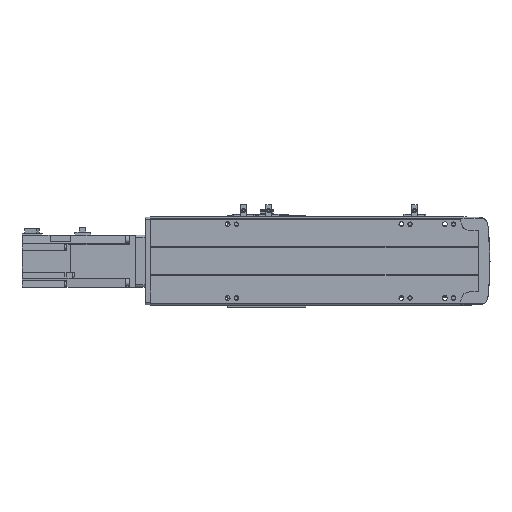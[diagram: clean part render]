
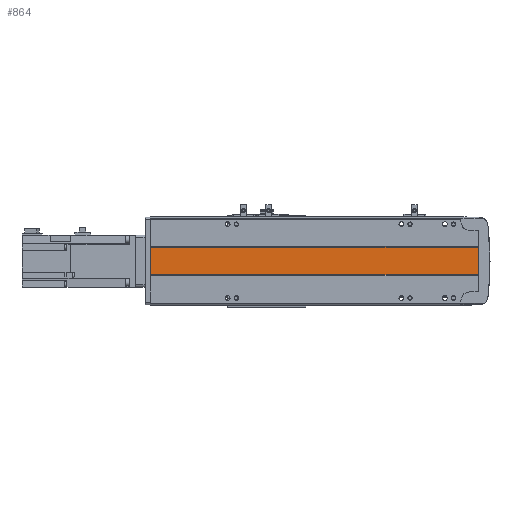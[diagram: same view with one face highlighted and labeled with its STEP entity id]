
A CAD part, front view. The second image highlights one B-rep face of the part: STEP entity #864.
In plain terms, the highlighted planar face has unit normal (0, -1, 0).
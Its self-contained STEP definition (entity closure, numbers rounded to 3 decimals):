
#864 = ADVANCED_FACE( '', ( #2298 ), #2299, .F. );
#2298 = FACE_OUTER_BOUND( '', #4547, .T. );
#2299 = PLANE( '', #4548 );
#4547 = EDGE_LOOP( '', ( #6789, #6790, #6791, #6792 ) );
#4548 = AXIS2_PLACEMENT_3D( '', #6793, #6794, #6795 );
#6789 = ORIENTED_EDGE( '', *, *, #12949, .F. );
#6790 = ORIENTED_EDGE( '', *, *, #12950, .T. );
#6791 = ORIENTED_EDGE( '', *, *, #12951, .T. );
#6792 = ORIENTED_EDGE( '', *, *, #12952, .F. );
#6793 = CARTESIAN_POINT( '', ( 397., 1., 16. ) );
#6794 = DIRECTION( '', ( 0., 1., 0. ) );
#6795 = DIRECTION( '', ( 0., 0., 1. ) );
#12949 = EDGE_CURVE( '', #15351, #15352, #15353, .T. );
#12950 = EDGE_CURVE( '', #15351, #15354, #15355, .T. );
#12951 = EDGE_CURVE( '', #15354, #15356, #15357, .T. );
#12952 = EDGE_CURVE( '', #15352, #15356, #15358, .T. );
#15351 = VERTEX_POINT( '', #18943 );
#15352 = VERTEX_POINT( '', #18944 );
#15353 = LINE( '', #18945, #18946 );
#15354 = VERTEX_POINT( '', #18947 );
#15355 = LINE( '', #18948, #18949 );
#15356 = VERTEX_POINT( '', #18950 );
#15357 = LINE( '', #18951, #18952 );
#15358 = LINE( '', #18953, #18954 );
#18943 = CARTESIAN_POINT( '', ( 383.5, 1., 16. ) );
#18944 = CARTESIAN_POINT( '', ( 383.5, 1., -16. ) );
#18945 = CARTESIAN_POINT( '', ( 383.5, 1., 16. ) );
#18946 = VECTOR( '', #24228, 1000. );
#18947 = CARTESIAN_POINT( '', ( 6., 1., 16. ) );
#18948 = CARTESIAN_POINT( '', ( 397., 1., 16. ) );
#18949 = VECTOR( '', #24229, 1000. );
#18950 = CARTESIAN_POINT( '', ( 6., 1., -16. ) );
#18951 = CARTESIAN_POINT( '', ( 6., 1., 16. ) );
#18952 = VECTOR( '', #24230, 1000. );
#18953 = CARTESIAN_POINT( '', ( 397., 1., -16. ) );
#18954 = VECTOR( '', #24231, 1000. );
#24228 = DIRECTION( '', ( 0., 0., -1. ) );
#24229 = DIRECTION( '', ( -1., 0., 0. ) );
#24230 = DIRECTION( '', ( 0., 0., -1. ) );
#24231 = DIRECTION( '', ( -1., 0., 0. ) );
